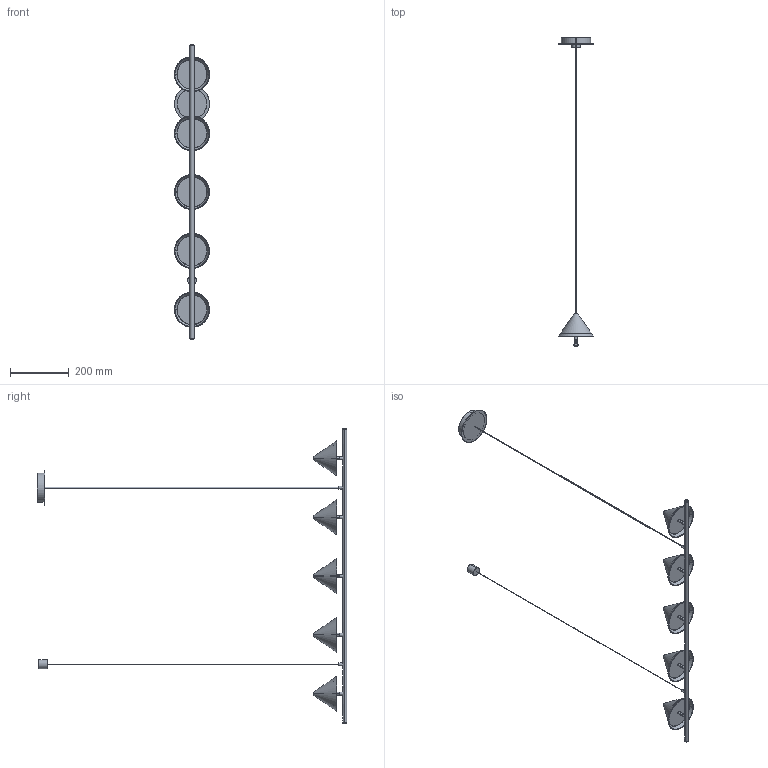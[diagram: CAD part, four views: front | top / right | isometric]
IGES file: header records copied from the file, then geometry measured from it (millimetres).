
Start section: SolidWorks IGES file using analytic representation for surfaces
Global section: file name: C:\Users\Agustin\Desktop\ENERO 2025\2D-3D\2D-3D ANZA 1336\2D-3D ANZA_C1336_5\ANZA COLGANTE_5.IGS; native system: SolidWorks 2018; preprocessor: SolidWorks 2018; author: Agustin; date: 250117.150556; units: millimetre
Bounding box: 120 x 1052 x 1000 mm (x, y, z)
Surface area: 374556.9 mm2 (no closed solid volume)
Topology: 0 solids, 0 shells, 163 faces, 3732 edges, 3732 vertices
Faces by surface type: bspline 87, revolution 76
